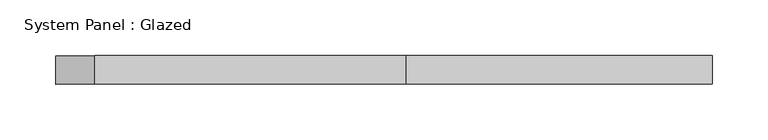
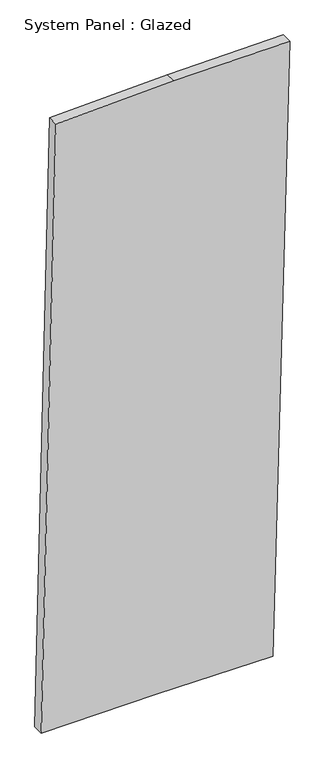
"""IFC4 building model written with IfcOpenShell, lengths in millimetres: plate geometry, System Panel : Glazed."""

from ifc_helpers import new_model, si_unit, frame, origin, place, context, project, spatial, polyline, outline, extrude, source, transform, mapped, element, save


def system_panel_glazed_0adcc974(model_context):
    return source(origin(), model_context, "Body", "SweptSolid", [
        extrude(outline(polyline([(1.7137994, -21.7855583), (0.0, 253.944848), (1519.4364695, 293.6446747), (1516.1646198, 19.9931275), (1505.9895221, -258.8551878), (0.0112961, -293.6446747), (1.7137994, -21.7855583)])), frame((0.0, -44.45, 0.0), z_axis=(0.0, 1.0, 0.0), x_axis=(0.0, 0.0, 1.0)), (0.0, 0.0, 1.0), 25.4),
    ])


if __name__ == "__main__":
    model = new_model("IFC4")
    model_context = context("Model", 3, world=origin())
    ifc_project = project(units=[si_unit("LENGTHUNIT", "METRE", prefix="MILLI")], contexts=[model_context])
    site = spatial("IfcSite", under=ifc_project)
    building = spatial("IfcBuilding", under=site)
    placement = place(None, origin())
    system_panel_glazed_shape = system_panel_glazed_0adcc974(model_context)
    element("IfcPlate", 1, ObjectType="System Panel : Glazed", at=placement, inside=building, context=model_context, shape_type="MappedRepresentation", body=[
        mapped(system_panel_glazed_shape, transform((0.0, 0.0, 0.0), x_axis=(1.0, 0.0, 0.0), y_axis=(0.0, 1.0, 0.0), z_axis=(0.0, 0.0, 1.0))),
    ])
    save(model, "model.ifc")
